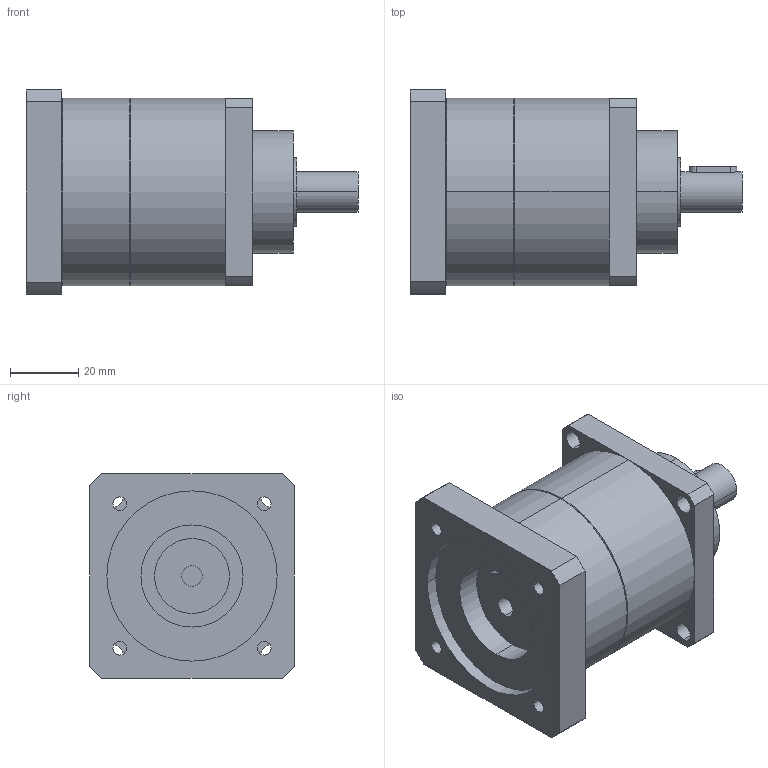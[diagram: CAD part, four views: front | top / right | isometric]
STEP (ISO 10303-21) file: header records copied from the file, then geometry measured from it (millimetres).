
FILE_DESCRIPTION(('CoCreate Modeling STEP Export'),'2;1');
FILE_NAME('GPT55_ig-3-4-5-7-10_12_B5A_6_P18.stp','2014-08-25T14:32:48',(''),(''),'CoCreate Modeling STEP processor for AP214 (Solid Model)','CoCreate Modeling 16.00C 25-Feb-2009 (C) Parametric Technology GmbH','');
FILE_SCHEMA(('AUTOMOTIVE_DESIGN { 1 0 10303 214 1 1 1 1 }'));
Length unit declared in the file: millimetre
Products named in the file (2): GPT55_ig-3-4-5-7-10_12_B5A_6_P18
Assembly tree (1 placements, depth 2):
  GPT55_ig-3-4-5-7-10_12_B5A_6_P18
    GPT55_ig-3-4-5-7-10_12_B5A_6_P18
Bounding box: 97.5 x 60 x 60 mm (x, y, z)
Volume: 177560.3 mm3; surface area: 25923.4 mm2
Topology: 1 solids, 1 shells, 77 faces, 197 edges, 132 vertices
Faces by surface type: cylinder 46, plane 27, cone 4
Entity records: 2480 total; most frequent: CARTESIAN_POINT 703, ORIENTED_EDGE 394, DIRECTION 318, EDGE_CURVE 197, VERTEX_POINT 132, AXIS2_PLACEMENT_3D 117, EDGE_LOOP 103, VECTOR 84
